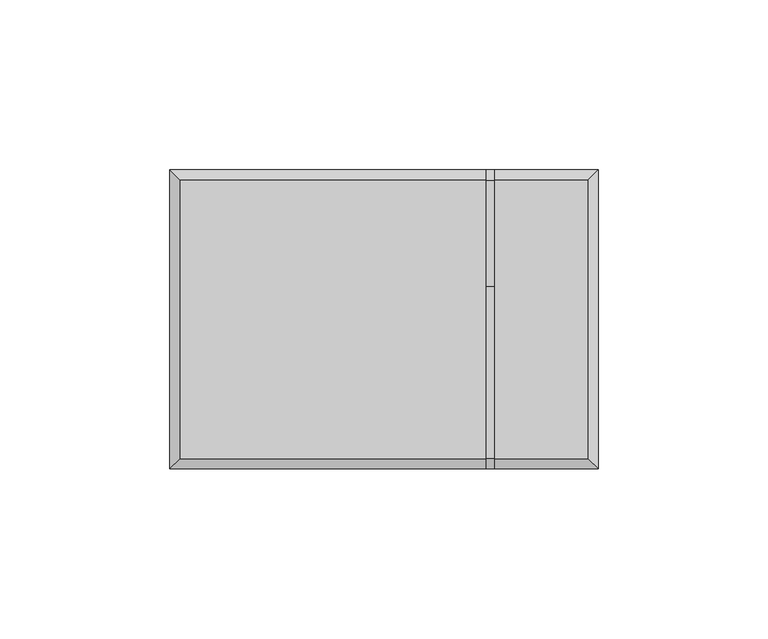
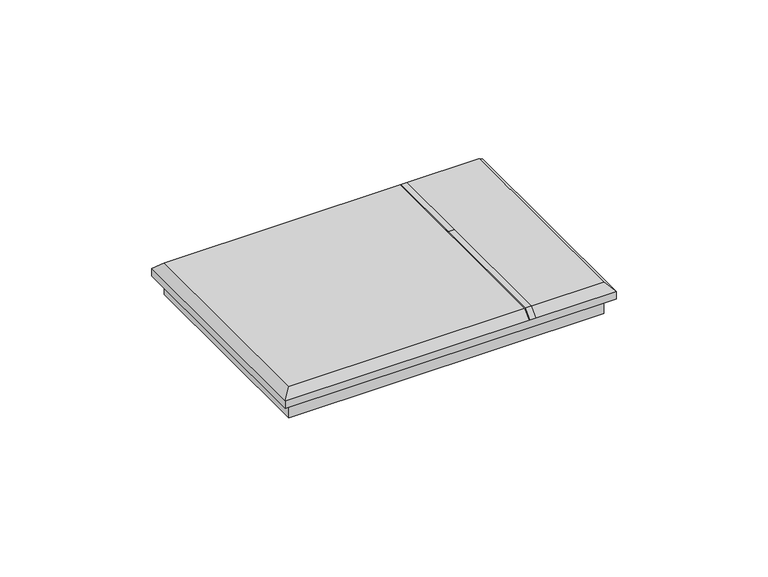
"""IFC4 building model written with IfcOpenShell, lengths in millimetres: proxy geometry, BT_LN-TermostatoConnesso : Termostato connesso - Art. XG8002 -  3M - Cover Nero."""

from ifc_helpers import new_model, si_unit, frame, origin, origin_with_axes, place, context, project, spatial, polyline, outline, extrude, faceted_brep, source, transform, mapped, element, save


def electrical_fixtures_b1f5ccc0(model_context):
    return source(origin(), model_context, "Body", "SolidModel", [
        extrude(outline(polyline([(9.75, 12.6), (41.0, 12.6), (44.0, 9.6), (25.8849836, 9.6), (9.75, 12.6)])), frame((30.0520577, 0.0, 0.0), z_axis=(1.0, 0.0, 0.0), x_axis=(0.0, 1.0, 0.0)), (0.0, 0.0, 1.0), 2.3396023),
        extrude(outline(polyline([(-41.0, 12.6), (9.75, 12.6), (25.8849836, 9.6), (-44.0, 9.6), (-41.0, 12.6)])), frame((30.0520577, 0.0, 0.0), z_axis=(1.0, 0.0, 0.0), x_axis=(0.0, 1.0, 0.0)), (0.0, 0.0, 1.0), 2.3396023),
        faceted_brep([(60.0, -41.0, 12.6), (60.0, 41.0, 12.6), (32.39166, 41.0, 12.6), (32.39166, -41.0, 12.6), (-60.0, 41.0, 12.6), (-60.0, -41.0, 12.6), (30.0520577, -41.0, 12.6), (30.0520577, 41.0, 12.6), (63.0, -44.0, 9.6), (32.39166, -44.0, 9.6), (-63.0, -44.0, 9.6), (30.0520577, -44.0, 9.6), (63.0, 44.0, 9.6), (32.39166, 44.0, 9.6), (-63.0, 44.0, 9.6), (30.0520577, 44.0, 9.6), (-63.0, 44.0, 6.6), (63.0, 44.0, 6.6), (63.0, -44.0, 6.6), (-63.0, -44.0, 6.6)], [[[0, 1, 2, 3]], [[4, 5, 6, 7]], [[8, 0, 3, 9]], [[5, 10, 11, 6]], [[1, 0, 8, 12]], [[1, 12, 13, 2]], [[14, 4, 7, 15]], [[5, 4, 14, 10]], [[3, 2, 13, 9]], [[7, 6, 11, 15]], [[11, 9, 13, 15]], [[16, 17, 18, 19]], [[16, 19, 10, 14]], [[19, 18, 8, 9, 11, 10]], [[18, 17, 12, 8]], [[17, 16, 14, 15, 13, 12]]]),
        extrude(outline(polyline([(-60.0, -41.0), (-60.0, 41.0), (60.0, 41.0), (60.0, -41.0), (-60.0, -41.0)])), origin_with_axes(), (0.0, 0.0, 1.0), 6.6),
    ])


if __name__ == "__main__":
    model = new_model("IFC4")
    model_context = context("Model", 3, world=origin())
    ifc_project = project(units=[si_unit("LENGTHUNIT", "METRE", prefix="MILLI")], contexts=[model_context])
    site = spatial("IfcSite", under=ifc_project)
    building = spatial("IfcBuilding", under=site)
    placement = place(None, origin())
    electrical_fixtures_shape = electrical_fixtures_b1f5ccc0(model_context)
    element("IfcBuildingElementProxy", 1, Name="BT_LN-TermostatoConnesso : Termostato connesso - Art. XG8002 -  3M - Cover Nero", ObjectType="BT_LN-TermostatoConnesso : Termostato connesso - Art. XG8002 -  3M - Cover Nero", at=placement, inside=building, context=model_context, shape_type="MappedRepresentation", body=[
        mapped(electrical_fixtures_shape, transform((0.0, 0.0, 0.0), x_axis=(1.0, 0.0, 0.0), y_axis=(0.0, 1.0, 0.0), z_axis=(0.0, 0.0, 1.0))),
    ])
    save(model, "model.ifc")
